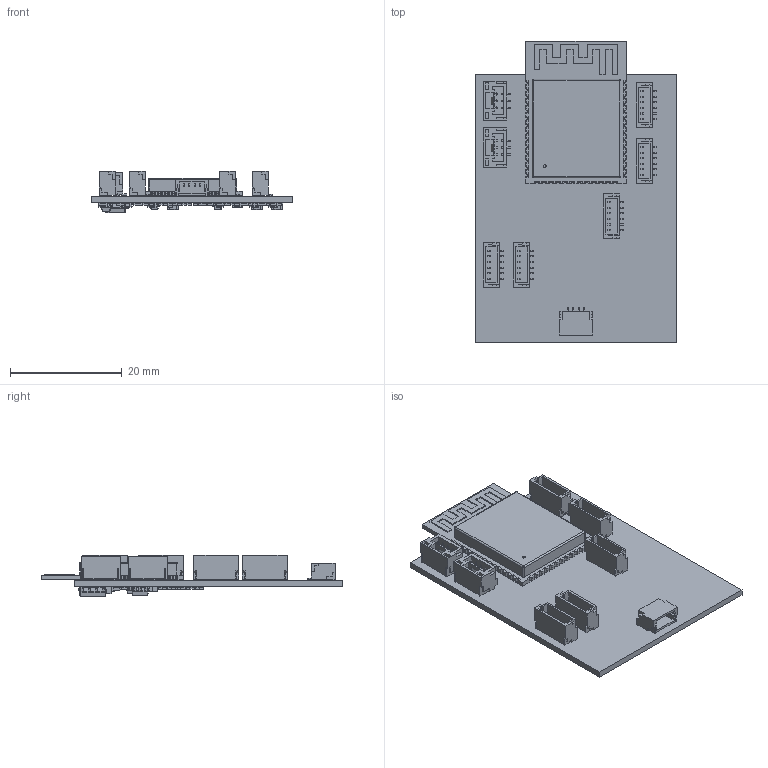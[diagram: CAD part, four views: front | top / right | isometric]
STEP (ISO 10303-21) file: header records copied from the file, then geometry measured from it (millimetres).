
FILE_DESCRIPTION(('KiCad electronic assembly'),'2;1');
FILE_NAME('PoseDoll_RevO4_proximal5_rs485.step','2026-09-24T05:32:31',( 'Pcbnew'),('Kicad'),'Open CASCADE STEP processor 7.9', 'KiCad to STEP converter','Unknown');
FILE_SCHEMA(('AUTOMOTIVE_DESIGN { 1 0 10303 214 1 1 1 1 }'));
Length unit declared in the file: millimetre
Products named in the file (24): PoseDoll_RevO4_proximal5_rs485 1; JST_SH_SM04B-SRSS-TB_1x04-1MP_P1.00mm_Horizontal; JST_SH_BM06B-SRSS-TB_1x06-1MP_P1.00mm_Vertical; ESP32-S3-WROOM-1; JST_GH_BM03B-GHS-TBT_1x03-1MP_P1.25mm_Vertical; JST_BM03B_GHS_TBT; R_0603_1608Metric; C_0603_1608Metric; SOT-23-6; SOT-583-8; SOT-23; C_0805_2012Metric; SOIC-8_3.9x4.9mm_P1.27mm; PoseDoll_RevO4_proximal5_rs485_PCB
Assembly tree (93 placements, depth 3):
  PoseDoll_RevO4_proximal5_rs485 1
    JST_SH_SM04B-SRSS-TB_1x04-1MP_P1.00mm_Horizontal
      JST_SH_SM04B-SRSS-TB_1x04-1MP_P1.00mm_Horizontal
    JST_SH_BM06B-SRSS-TB_1x06-1MP_P1.00mm_Vertical  x5
      JST_SH_BM06B-SRSS-TB_1x06-1MP_P1.00mm_Vertical
    ESP32-S3-WROOM-1
      ESP32-S3-WROOM-1
    JST_GH_BM03B-GHS-TBT_1x03-1MP_P1.25mm_Vertical  x2
      JST_BM03B_GHS_TBT
    R_0603_1608Metric  x51
      R_0603_1608Metric
    C_0603_1608Metric  x13
      C_0603_1608Metric
    SOT-23-6
      SOT-23-6
    SOT-583-8
      SOT-583-8
    SOT-23  x2
      SOT-23
    C_0805_2012Metric  x3
      C_0805_2012Metric
    SOIC-8_3.9x4.9mm_P1.27mm
      SOIC-8_3.9x4.9mm_P1.27mm
    PoseDoll_RevO4_proximal5_rs485_PCB
Bounding box: 36 x 53.95 x 7.35 mm (x, y, z)
Volume: 3498.8 mm3; surface area: 7870.8 mm2
Topology: 133 solids, 133 shells, 4537 faces, 11606 edges, 7432 vertices
Faces by surface type: plane 3671, cylinder 782, bspline 80, sphere 4
Full cylindrical faces by diameter (mm): 0.1 x1, 0.3 x12, 0.5 x1
Entity records: 79160 total; most frequent: CARTESIAN_POINT 11209, ORIENTED_EDGE 10607, DIRECTION 9967, EDGE_CURVE 5304, LINE 4801, VECTOR 4801, VERTEX_POINT 3321, AXIS2_PLACEMENT_3D 2583
